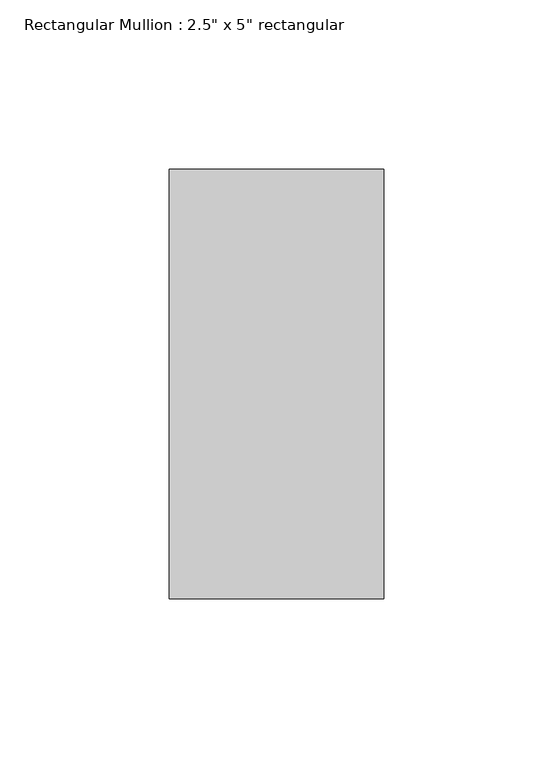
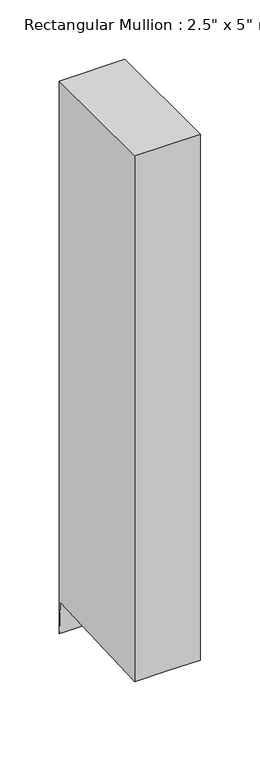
"""IFC4 building model written with IfcOpenShell, lengths in millimetres: member geometry."""

from ifc_helpers import new_model, si_unit, origin, place, context, project, spatial, faceted_brep, source, transform, mapped, element, save


def member_d4789dbb(model_context):
    return source(origin(), model_context, "Body", "Brep", [
        faceted_brep([(31.75, 63.5, 0.0), (-31.75, 63.5, 0.0), (-31.75, -63.5, 0.0), (31.75, -63.5, 0.0), (31.75, 63.5, -568.018324), (0.0, 63.5, -568.018324), (-31.75, 63.5, -568.018324), (-31.75, 62.0828234, -534.9390623), (-31.75, -63.5, -540.3192622), (0.0, -63.5, -540.3192622), (31.75, -63.5, -540.3192622), (31.75, 62.0828234, -534.9390623), (0.0, 62.0828234, -534.9390623)], [[[0, 1, 2, 3]], [[1, 0, 4, 5, 6]], [[2, 1, 6, 7, 8]], [[3, 2, 8, 9, 10]], [[0, 3, 10, 11, 4]], [[4, 11, 12, 5]], [[11, 10, 9, 12]], [[9, 8, 7, 12]], [[7, 6, 5, 12]]]),
    ])


if __name__ == "__main__":
    model = new_model("IFC4")
    model_context = context("Model", 3, world=origin())
    ifc_project = project(units=[si_unit("LENGTHUNIT", "METRE", prefix="MILLI")], contexts=[model_context])
    site = spatial("IfcSite", under=ifc_project)
    building = spatial("IfcBuilding", under=site)
    placement = place(None, origin())
    member_shape = member_d4789dbb(model_context)
    element("IfcMember", 1, ObjectType="Rectangular Mullion : 2.5\" x 5\" rectangular", at=placement, inside=building, context=model_context, shape_type="MappedRepresentation", body=[
        mapped(member_shape, transform((0.0, 0.0, 0.0), x_axis=(1.0, 0.0, 0.0), y_axis=(0.0, 1.0, 0.0), z_axis=(0.0, 0.0, 1.0))),
    ])
    save(model, "model.ifc")
